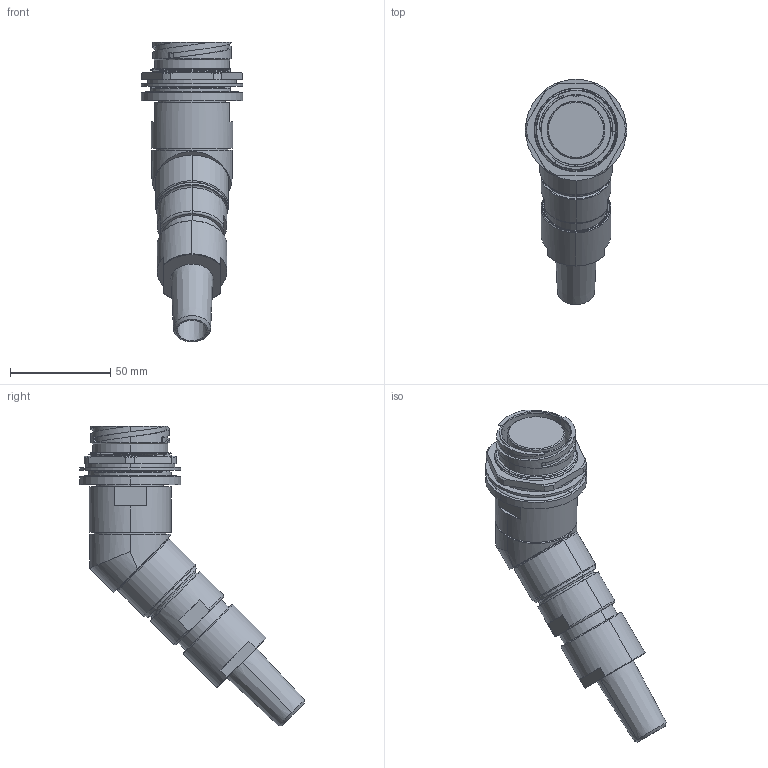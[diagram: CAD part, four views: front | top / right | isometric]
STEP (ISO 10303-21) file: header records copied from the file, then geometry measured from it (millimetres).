
FILE_DESCRIPTION (( 'STEP AP214' ), '1' );
FILE_NAME ('QLINK45-RJBX-23XX-SXXX-RA.STEP', '2025-12-17T16:28:09', ( '' ), ( '' ), 'SwSTEP 2.0', 'SolidWorks 2024', '' );
FILE_SCHEMA (( 'AUTOMOTIVE_DESIGN' ));
Length unit declared in the file: millimetre
Products named in the file (1): QLINK45-RJBX-23XX-SXXX-RA
Bounding box: 50.55 x 112.34 x 149.64 mm (x, y, z)
Volume: 160060.4 mm3; surface area: 37772.4 mm2
Topology: 2 solids, 2 shells, 277 faces, 702 edges, 448 vertices
Faces by surface type: cylinder 87, plane 61, cone 56, bspline 50, torus 23
Entity records: 21701 total; most frequent: CARTESIAN_POINT 15565, ORIENTED_EDGE 1404, DIRECTION 1155, EDGE_CURVE 702, AXIS2_PLACEMENT_3D 482, VERTEX_POINT 448, EDGE_LOOP 306, ADVANCED_FACE 277
